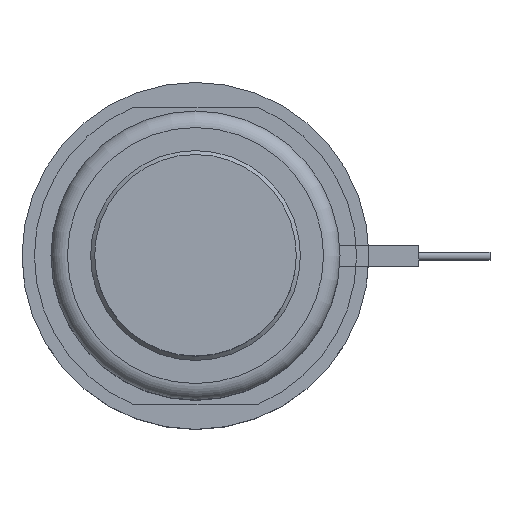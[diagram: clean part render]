
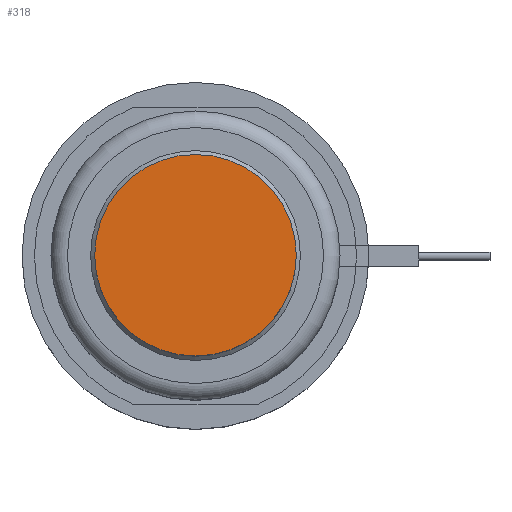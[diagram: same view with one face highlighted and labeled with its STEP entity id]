
A CAD part, top view. The second image highlights one B-rep face of the part: STEP entity #318.
In plain terms, the highlighted planar face has unit normal (0, 0, 1).
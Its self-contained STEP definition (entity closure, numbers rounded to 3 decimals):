
#318=ADVANCED_FACE('',(#517),#380,.F.);
#380=PLANE('',#1366);
#517=FACE_OUTER_BOUND('',#625,.T.);
#625=EDGE_LOOP('',(#855));
#855=ORIENTED_EDGE('',*,*,#1143,.F.);
#1017=VERTEX_POINT('',#2117);
#1143=EDGE_CURVE('',#1017,#1017,#1240,.T.);
#1240=CIRCLE('',#1365,12.2);
#1365=AXIS2_PLACEMENT_3D('',#2116,#1659,#1660);
#1366=AXIS2_PLACEMENT_3D('',#2118,#1661,#1662);
#1659=DIRECTION('',(0.,0.,-1.));
#1660=DIRECTION('',(-1.,0.,0.));
#1661=DIRECTION('',(0.,0.,-1.));
#1662=DIRECTION('',(-1.,0.,0.));
#2116=CARTESIAN_POINT('',(0.,0.,18.));
#2117=CARTESIAN_POINT('',(-12.2,0.,18.));
#2118=CARTESIAN_POINT('',(0.,0.,18.));
